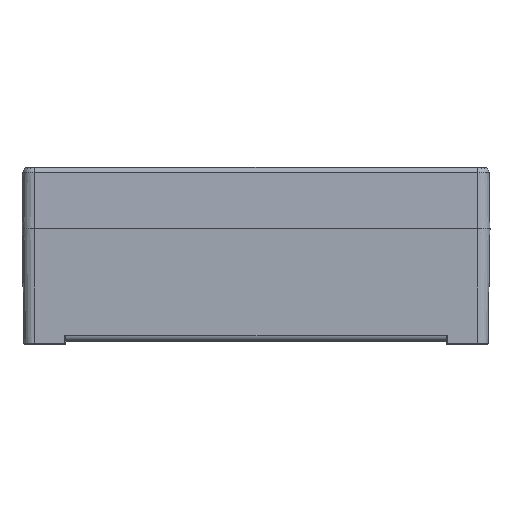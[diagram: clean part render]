
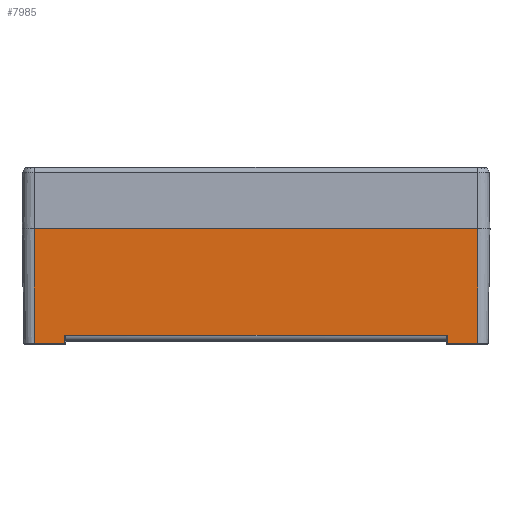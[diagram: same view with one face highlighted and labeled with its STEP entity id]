
A CAD part, top view. The second image highlights one B-rep face of the part: STEP entity #7985.
In plain terms, the highlighted planar face has unit normal (0, -0.018, 1).
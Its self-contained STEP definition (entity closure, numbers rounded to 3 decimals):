
#1773 = LINE ( 'NONE', #13751, #16470 ) ;
#2028 = CARTESIAN_POINT ( 'NONE',  ( -109., -56.5, 149.014 ) ) ;
#2292 = ORIENTED_EDGE ( 'NONE', *, *, #33411, .F. ) ;
#2411 = VECTOR ( 'NONE', #21448, 1000. ) ;
#2602 = VERTEX_POINT ( 'NONE', #18509 ) ;
#3676 = VERTEX_POINT ( 'NONE', #18239 ) ;
#3858 = CARTESIAN_POINT ( 'NONE',  ( -94.04, -56.5, 149.014 ) ) ;
#4696 = ORIENTED_EDGE ( 'NONE', *, *, #31090, .F. ) ;
#6003 = LINE ( 'NONE', #31256, #20687 ) ;
#6299 = FACE_OUTER_BOUND ( 'NONE', #16650, .T. ) ;
#6630 = VERTEX_POINT ( 'NONE', #25136 ) ;
#6650 = VERTEX_POINT ( 'NONE', #13496 ) ;
#6970 = VECTOR ( 'NONE', #13193, 1000. ) ;
#7038 = VERTEX_POINT ( 'NONE', #33972 ) ;
#7699 = CARTESIAN_POINT ( 'NONE',  ( -94.04, -52.544, 149.083 ) ) ;
#7985 = ADVANCED_FACE ( 'NONE', ( #6299 ), #36838, .T. ) ;
#9031 = VECTOR ( 'NONE', #37586, 1000. ) ;
#9720 = VECTOR ( 'NONE', #18913, 1000. ) ;
#12478 = CARTESIAN_POINT ( 'NONE',  ( 94.04, -52.544, 149.083 ) ) ;
#13193 = DIRECTION ( 'NONE',  ( 0., 1., 0.017 ) ) ;
#13496 = CARTESIAN_POINT ( 'NONE',  ( -109., 0., 150. ) ) ;
#13751 = CARTESIAN_POINT ( 'NONE',  ( 109., 0., 150. ) ) ;
#14123 = ORIENTED_EDGE ( 'NONE', *, *, #26591, .F. ) ;
#14158 = LINE ( 'NONE', #12478, #21931 ) ;
#14884 = EDGE_CURVE ( 'NONE', #26285, #34812, #21643, .T. ) ;
#15148 = AXIS2_PLACEMENT_3D ( 'NONE', #31105, #34021, #16446 ) ;
#16446 = DIRECTION ( 'NONE',  ( 0., -1., -0.017 ) ) ;
#16470 = VECTOR ( 'NONE', #16574, 1000. ) ;
#16574 = DIRECTION ( 'NONE',  ( 0., 1., 0.017 ) ) ;
#16650 = EDGE_LOOP ( 'NONE', ( #24231, #32862, #14123, #30428, #4696, #34226, #2292, #22597 ) ) ;
#18239 = CARTESIAN_POINT ( 'NONE',  ( 109., -56.5, 149.014 ) ) ;
#18509 = CARTESIAN_POINT ( 'NONE',  ( 94.04, -52.544, 149.083 ) ) ;
#18913 = DIRECTION ( 'NONE',  ( -1., 0., 0. ) ) ;
#20687 = VECTOR ( 'NONE', #34191, 1000. ) ;
#21127 = VECTOR ( 'NONE', #32988, 1000. ) ;
#21448 = DIRECTION ( 'NONE',  ( -1., 0., 0. ) ) ;
#21643 = LINE ( 'NONE', #36637, #6970 ) ;
#21931 = VECTOR ( 'NONE', #27105, 1000. ) ;
#22597 = ORIENTED_EDGE ( 'NONE', *, *, #14884, .T. ) ;
#23925 = EDGE_CURVE ( 'NONE', #3676, #6630, #1773, .T. ) ;
#24231 = ORIENTED_EDGE ( 'NONE', *, *, #24372, .T. ) ;
#24372 = EDGE_CURVE ( 'NONE', #34812, #2602, #14158, .T. ) ;
#24613 = LINE ( 'NONE', #28650, #9031 ) ;
#24920 = LINE ( 'NONE', #3858, #2411 ) ;
#25136 = CARTESIAN_POINT ( 'NONE',  ( 109., 0., 150. ) ) ;
#26041 = CARTESIAN_POINT ( 'NONE',  ( -94.04, -56.5, 149.014 ) ) ;
#26240 = LINE ( 'NONE', #33547, #9720 ) ;
#26285 = VERTEX_POINT ( 'NONE', #26041 ) ;
#26591 = EDGE_CURVE ( 'NONE', #3676, #7038, #26240, .T. ) ;
#27020 = EDGE_CURVE ( 'NONE', #7038, #2602, #29880, .T. ) ;
#27105 = DIRECTION ( 'NONE',  ( 1., 0., 0. ) ) ;
#28650 = CARTESIAN_POINT ( 'NONE',  ( -109., 0., 150. ) ) ;
#29880 = LINE ( 'NONE', #30041, #21127 ) ;
#30041 = CARTESIAN_POINT ( 'NONE',  ( 94.04, -55., 149.04 ) ) ;
#30428 = ORIENTED_EDGE ( 'NONE', *, *, #23925, .T. ) ;
#31090 = EDGE_CURVE ( 'NONE', #6650, #6630, #24613, .T. ) ;
#31105 = CARTESIAN_POINT ( 'NONE',  ( -109., 0., 150. ) ) ;
#31256 = CARTESIAN_POINT ( 'NONE',  ( -109., 0., 150. ) ) ;
#32862 = ORIENTED_EDGE ( 'NONE', *, *, #27020, .F. ) ;
#32988 = DIRECTION ( 'NONE',  ( 0., 1., 0.017 ) ) ;
#33411 = EDGE_CURVE ( 'NONE', #26285, #36978, #24920, .T. ) ;
#33547 = CARTESIAN_POINT ( 'NONE',  ( 109., -56.5, 149.014 ) ) ;
#33972 = CARTESIAN_POINT ( 'NONE',  ( 94.04, -56.5, 149.014 ) ) ;
#34021 = DIRECTION ( 'NONE',  ( 0., -0.017, 1. ) ) ;
#34191 = DIRECTION ( 'NONE',  ( 0., 1., 0.017 ) ) ;
#34226 = ORIENTED_EDGE ( 'NONE', *, *, #35679, .F. ) ;
#34812 = VERTEX_POINT ( 'NONE', #7699 ) ;
#35679 = EDGE_CURVE ( 'NONE', #36978, #6650, #6003, .T. ) ;
#36637 = CARTESIAN_POINT ( 'NONE',  ( -94.04, -55., 149.04 ) ) ;
#36838 = PLANE ( 'NONE',  #15148 ) ;
#36978 = VERTEX_POINT ( 'NONE', #2028 ) ;
#37586 = DIRECTION ( 'NONE',  ( 1., 0., 0. ) ) ;
